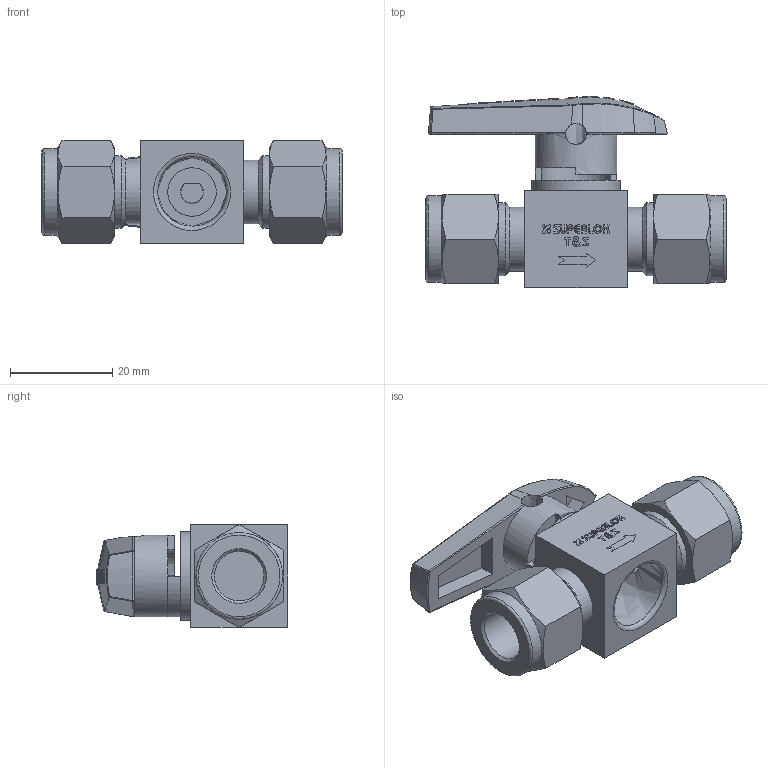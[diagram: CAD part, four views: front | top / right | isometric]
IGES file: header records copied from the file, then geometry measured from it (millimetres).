
Global section: file name: SPV131-S6; native system: Autodesk Inventor 2016; preprocessor: unknown; author: DESIGNPC2; date: 20160502.092540; units: millimetre
Bounding box: 58.83 x 37.5 x 20.21 mm (x, y, z)
Volume: 15317 mm3; surface area: 9362 mm2
Topology: 2 solids, 2 shells, 439 faces, 1157 edges, 765 vertices
Faces by surface type: bspline 439
